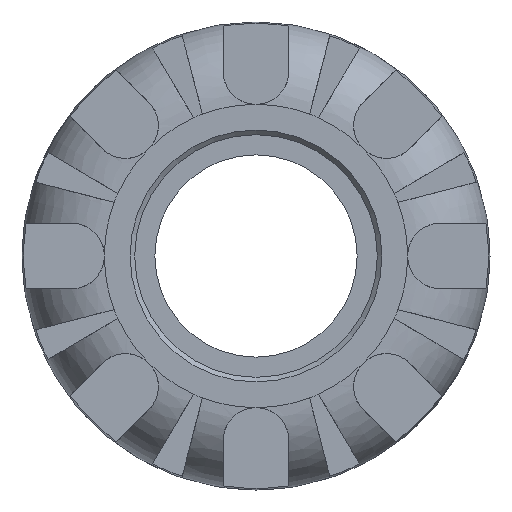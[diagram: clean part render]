
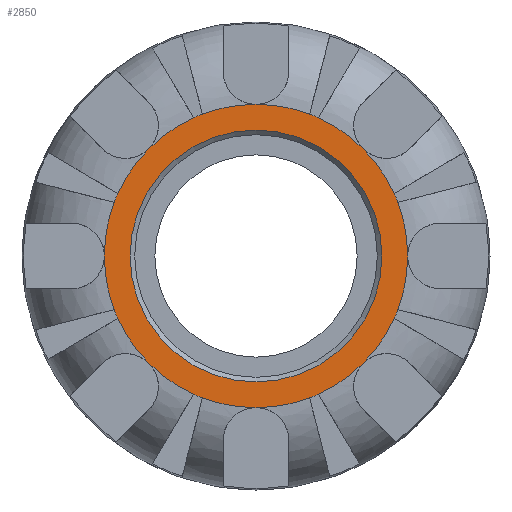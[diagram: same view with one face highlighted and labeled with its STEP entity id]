
A CAD part, left-side view. The second image highlights one B-rep face of the part: STEP entity #2850.
In plain terms, the highlighted planar face has unit normal (-1, 0, 0).
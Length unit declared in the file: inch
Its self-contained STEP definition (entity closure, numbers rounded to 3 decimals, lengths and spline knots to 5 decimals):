
#19=FACE_BOUND('',#619,.T.);
#34=PLANE('',#3049);
#454=FACE_OUTER_BOUND('',#618,.T.);
#618=EDGE_LOOP('',(#1823,#1824,#1825,#1826,#1827,#1828,#1829,#1830,#1831,
#1832,#1833,#1834,#1835,#1836,#1837,#1838,#1839,#1840,#1841,#1842,#1843,
#1844,#1845,#1846));
#619=EDGE_LOOP('',(#1847));
#785=CIRCLE('',#3046,0.43342);
#788=CIRCLE('',#3050,0.52165);
#789=CIRCLE('',#3051,0.52165);
#790=CIRCLE('',#3052,0.52165);
#791=CIRCLE('',#3053,0.52165);
#792=CIRCLE('',#3054,0.52165);
#793=CIRCLE('',#3055,0.52165);
#794=CIRCLE('',#3056,0.52165);
#795=CIRCLE('',#3057,0.52165);
#796=CIRCLE('',#3058,0.52165);
#797=CIRCLE('',#3059,0.52165);
#798=CIRCLE('',#3060,0.52165);
#799=CIRCLE('',#3061,0.52165);
#800=CIRCLE('',#3062,0.52165);
#801=CIRCLE('',#3063,0.52165);
#802=CIRCLE('',#3064,0.52165);
#803=CIRCLE('',#3065,0.52165);
#804=CIRCLE('',#3066,0.52165);
#805=CIRCLE('',#3067,0.52165);
#806=CIRCLE('',#3068,0.52165);
#807=CIRCLE('',#3069,0.52165);
#808=CIRCLE('',#3070,0.52165);
#809=CIRCLE('',#3071,0.52165);
#810=CIRCLE('',#3072,0.52165);
#811=CIRCLE('',#3073,0.52165);
#1077=VERTEX_POINT('',#4469);
#1080=VERTEX_POINT('',#4477);
#1081=VERTEX_POINT('',#4478);
#1082=VERTEX_POINT('',#4480);
#1083=VERTEX_POINT('',#4482);
#1084=VERTEX_POINT('',#4484);
#1085=VERTEX_POINT('',#4486);
#1086=VERTEX_POINT('',#4488);
#1087=VERTEX_POINT('',#4490);
#1088=VERTEX_POINT('',#4492);
#1089=VERTEX_POINT('',#4494);
#1090=VERTEX_POINT('',#4496);
#1091=VERTEX_POINT('',#4498);
#1092=VERTEX_POINT('',#4500);
#1093=VERTEX_POINT('',#4502);
#1094=VERTEX_POINT('',#4504);
#1095=VERTEX_POINT('',#4506);
#1096=VERTEX_POINT('',#4508);
#1097=VERTEX_POINT('',#4510);
#1098=VERTEX_POINT('',#4512);
#1099=VERTEX_POINT('',#4514);
#1100=VERTEX_POINT('',#4516);
#1101=VERTEX_POINT('',#4518);
#1102=VERTEX_POINT('',#4520);
#1103=VERTEX_POINT('',#4522);
#1363=EDGE_CURVE('',#1077,#1077,#785,.T.);
#1367=EDGE_CURVE('',#1080,#1081,#788,.T.);
#1368=EDGE_CURVE('',#1082,#1080,#789,.T.);
#1369=EDGE_CURVE('',#1083,#1082,#790,.T.);
#1370=EDGE_CURVE('',#1084,#1083,#791,.T.);
#1371=EDGE_CURVE('',#1085,#1084,#792,.T.);
#1372=EDGE_CURVE('',#1086,#1085,#793,.T.);
#1373=EDGE_CURVE('',#1087,#1086,#794,.T.);
#1374=EDGE_CURVE('',#1088,#1087,#795,.T.);
#1375=EDGE_CURVE('',#1089,#1088,#796,.T.);
#1376=EDGE_CURVE('',#1090,#1089,#797,.T.);
#1377=EDGE_CURVE('',#1091,#1090,#798,.T.);
#1378=EDGE_CURVE('',#1092,#1091,#799,.T.);
#1379=EDGE_CURVE('',#1093,#1092,#800,.T.);
#1380=EDGE_CURVE('',#1094,#1093,#801,.T.);
#1381=EDGE_CURVE('',#1095,#1094,#802,.T.);
#1382=EDGE_CURVE('',#1096,#1095,#803,.T.);
#1383=EDGE_CURVE('',#1097,#1096,#804,.T.);
#1384=EDGE_CURVE('',#1098,#1097,#805,.T.);
#1385=EDGE_CURVE('',#1099,#1098,#806,.T.);
#1386=EDGE_CURVE('',#1100,#1099,#807,.T.);
#1387=EDGE_CURVE('',#1101,#1100,#808,.T.);
#1388=EDGE_CURVE('',#1102,#1101,#809,.T.);
#1389=EDGE_CURVE('',#1103,#1102,#810,.T.);
#1390=EDGE_CURVE('',#1081,#1103,#811,.T.);
#1823=ORIENTED_EDGE('',*,*,#1367,.F.);
#1824=ORIENTED_EDGE('',*,*,#1368,.F.);
#1825=ORIENTED_EDGE('',*,*,#1369,.F.);
#1826=ORIENTED_EDGE('',*,*,#1370,.F.);
#1827=ORIENTED_EDGE('',*,*,#1371,.F.);
#1828=ORIENTED_EDGE('',*,*,#1372,.F.);
#1829=ORIENTED_EDGE('',*,*,#1373,.F.);
#1830=ORIENTED_EDGE('',*,*,#1374,.F.);
#1831=ORIENTED_EDGE('',*,*,#1375,.F.);
#1832=ORIENTED_EDGE('',*,*,#1376,.F.);
#1833=ORIENTED_EDGE('',*,*,#1377,.F.);
#1834=ORIENTED_EDGE('',*,*,#1378,.F.);
#1835=ORIENTED_EDGE('',*,*,#1379,.F.);
#1836=ORIENTED_EDGE('',*,*,#1380,.F.);
#1837=ORIENTED_EDGE('',*,*,#1381,.F.);
#1838=ORIENTED_EDGE('',*,*,#1382,.F.);
#1839=ORIENTED_EDGE('',*,*,#1383,.F.);
#1840=ORIENTED_EDGE('',*,*,#1384,.F.);
#1841=ORIENTED_EDGE('',*,*,#1385,.F.);
#1842=ORIENTED_EDGE('',*,*,#1386,.F.);
#1843=ORIENTED_EDGE('',*,*,#1387,.F.);
#1844=ORIENTED_EDGE('',*,*,#1388,.F.);
#1845=ORIENTED_EDGE('',*,*,#1389,.F.);
#1846=ORIENTED_EDGE('',*,*,#1390,.F.);
#1847=ORIENTED_EDGE('',*,*,#1363,.F.);
#2850=ADVANCED_FACE('',(#454,#19),#34,.T.);
#3046=AXIS2_PLACEMENT_3D('',#4470,#3418,#3419);
#3049=AXIS2_PLACEMENT_3D('',#4476,#3425,#3426);
#3050=AXIS2_PLACEMENT_3D('',#4479,#3427,#3428);
#3051=AXIS2_PLACEMENT_3D('',#4481,#3429,#3430);
#3052=AXIS2_PLACEMENT_3D('',#4483,#3431,#3432);
#3053=AXIS2_PLACEMENT_3D('',#4485,#3433,#3434);
#3054=AXIS2_PLACEMENT_3D('',#4487,#3435,#3436);
#3055=AXIS2_PLACEMENT_3D('',#4489,#3437,#3438);
#3056=AXIS2_PLACEMENT_3D('',#4491,#3439,#3440);
#3057=AXIS2_PLACEMENT_3D('',#4493,#3441,#3442);
#3058=AXIS2_PLACEMENT_3D('',#4495,#3443,#3444);
#3059=AXIS2_PLACEMENT_3D('',#4497,#3445,#3446);
#3060=AXIS2_PLACEMENT_3D('',#4499,#3447,#3448);
#3061=AXIS2_PLACEMENT_3D('',#4501,#3449,#3450);
#3062=AXIS2_PLACEMENT_3D('',#4503,#3451,#3452);
#3063=AXIS2_PLACEMENT_3D('',#4505,#3453,#3454);
#3064=AXIS2_PLACEMENT_3D('',#4507,#3455,#3456);
#3065=AXIS2_PLACEMENT_3D('',#4509,#3457,#3458);
#3066=AXIS2_PLACEMENT_3D('',#4511,#3459,#3460);
#3067=AXIS2_PLACEMENT_3D('',#4513,#3461,#3462);
#3068=AXIS2_PLACEMENT_3D('',#4515,#3463,#3464);
#3069=AXIS2_PLACEMENT_3D('',#4517,#3465,#3466);
#3070=AXIS2_PLACEMENT_3D('',#4519,#3467,#3468);
#3071=AXIS2_PLACEMENT_3D('',#4521,#3469,#3470);
#3072=AXIS2_PLACEMENT_3D('',#4523,#3471,#3472);
#3073=AXIS2_PLACEMENT_3D('',#4524,#3473,#3474);
#3418=DIRECTION('center_axis',(-1.,0.,0.));
#3419=DIRECTION('ref_axis',(0.,-1.,0.));
#3425=DIRECTION('center_axis',(-1.,0.,0.));
#3426=DIRECTION('ref_axis',(0.,0.,1.));
#3427=DIRECTION('center_axis',(1.,0.,0.));
#3428=DIRECTION('ref_axis',(0.,0.,-1.));
#3429=DIRECTION('center_axis',(1.,0.,0.));
#3430=DIRECTION('ref_axis',(0.,0.,-1.));
#3431=DIRECTION('center_axis',(1.,0.,0.));
#3432=DIRECTION('ref_axis',(0.,0.,-1.));
#3433=DIRECTION('center_axis',(1.,0.,0.));
#3434=DIRECTION('ref_axis',(0.,0.,-1.));
#3435=DIRECTION('center_axis',(1.,0.,0.));
#3436=DIRECTION('ref_axis',(0.,0.,-1.));
#3437=DIRECTION('center_axis',(1.,0.,0.));
#3438=DIRECTION('ref_axis',(0.,0.,-1.));
#3439=DIRECTION('center_axis',(1.,0.,0.));
#3440=DIRECTION('ref_axis',(0.,0.,-1.));
#3441=DIRECTION('center_axis',(1.,0.,0.));
#3442=DIRECTION('ref_axis',(0.,0.,-1.));
#3443=DIRECTION('center_axis',(1.,0.,0.));
#3444=DIRECTION('ref_axis',(0.,0.,-1.));
#3445=DIRECTION('center_axis',(1.,0.,0.));
#3446=DIRECTION('ref_axis',(0.,0.,-1.));
#3447=DIRECTION('center_axis',(1.,0.,0.));
#3448=DIRECTION('ref_axis',(0.,0.,-1.));
#3449=DIRECTION('center_axis',(1.,0.,0.));
#3450=DIRECTION('ref_axis',(0.,0.,-1.));
#3451=DIRECTION('center_axis',(1.,0.,0.));
#3452=DIRECTION('ref_axis',(0.,0.,-1.));
#3453=DIRECTION('center_axis',(1.,0.,0.));
#3454=DIRECTION('ref_axis',(0.,0.,-1.));
#3455=DIRECTION('center_axis',(1.,0.,0.));
#3456=DIRECTION('ref_axis',(0.,0.,-1.));
#3457=DIRECTION('center_axis',(1.,0.,0.));
#3458=DIRECTION('ref_axis',(0.,0.,-1.));
#3459=DIRECTION('center_axis',(1.,0.,0.));
#3460=DIRECTION('ref_axis',(0.,0.,-1.));
#3461=DIRECTION('center_axis',(1.,0.,0.));
#3462=DIRECTION('ref_axis',(0.,0.,-1.));
#3463=DIRECTION('center_axis',(1.,0.,0.));
#3464=DIRECTION('ref_axis',(0.,0.,-1.));
#3465=DIRECTION('center_axis',(1.,0.,0.));
#3466=DIRECTION('ref_axis',(0.,0.,-1.));
#3467=DIRECTION('center_axis',(1.,0.,0.));
#3468=DIRECTION('ref_axis',(0.,0.,-1.));
#3469=DIRECTION('center_axis',(1.,0.,0.));
#3470=DIRECTION('ref_axis',(0.,0.,-1.));
#3471=DIRECTION('center_axis',(1.,0.,0.));
#3472=DIRECTION('ref_axis',(0.,0.,-1.));
#3473=DIRECTION('center_axis',(1.,0.,0.));
#3474=DIRECTION('ref_axis',(0.,0.,-1.));
#4469=CARTESIAN_POINT('',(-1.81,0.43342,0.));
#4470=CARTESIAN_POINT('Origin',(-1.81,0.,0.));
#4476=CARTESIAN_POINT('Origin',(-1.81,0.52165,0.));
#4477=CARTESIAN_POINT('',(-1.81,0.52165,0.));
#4478=CARTESIAN_POINT('',(-1.81,0.48809,0.1841));
#4479=CARTESIAN_POINT('Origin',(-1.81,0.,0.));
#4480=CARTESIAN_POINT('',(-1.81,0.48809,-0.1841));
#4481=CARTESIAN_POINT('Origin',(-1.81,0.,0.));
#4482=CARTESIAN_POINT('',(-1.81,0.47531,-0.21495));
#4483=CARTESIAN_POINT('Origin',(-1.81,0.,0.));
#4484=CARTESIAN_POINT('',(-1.81,0.36886,-0.36886));
#4485=CARTESIAN_POINT('Origin',(-1.81,0.,0.));
#4486=CARTESIAN_POINT('',(-1.81,0.21495,-0.47531));
#4487=CARTESIAN_POINT('Origin',(-1.81,0.,0.));
#4488=CARTESIAN_POINT('',(-1.81,0.1841,-0.48809));
#4489=CARTESIAN_POINT('Origin',(-1.81,0.,0.));
#4490=CARTESIAN_POINT('',(-1.81,0.,-0.52165));
#4491=CARTESIAN_POINT('Origin',(-1.81,0.,0.));
#4492=CARTESIAN_POINT('',(-1.81,-0.1841,-0.48809));
#4493=CARTESIAN_POINT('Origin',(-1.81,0.,0.));
#4494=CARTESIAN_POINT('',(-1.81,-0.21495,-0.47531));
#4495=CARTESIAN_POINT('Origin',(-1.81,0.,0.));
#4496=CARTESIAN_POINT('',(-1.81,-0.36886,-0.36886));
#4497=CARTESIAN_POINT('Origin',(-1.81,0.,0.));
#4498=CARTESIAN_POINT('',(-1.81,-0.47531,-0.21495));
#4499=CARTESIAN_POINT('Origin',(-1.81,0.,0.));
#4500=CARTESIAN_POINT('',(-1.81,-0.48809,-0.1841));
#4501=CARTESIAN_POINT('Origin',(-1.81,0.,0.));
#4502=CARTESIAN_POINT('',(-1.81,-0.52165,0.));
#4503=CARTESIAN_POINT('Origin',(-1.81,0.,0.));
#4504=CARTESIAN_POINT('',(-1.81,-0.48809,0.1841));
#4505=CARTESIAN_POINT('Origin',(-1.81,0.,0.));
#4506=CARTESIAN_POINT('',(-1.81,-0.47531,0.21495));
#4507=CARTESIAN_POINT('Origin',(-1.81,0.,0.));
#4508=CARTESIAN_POINT('',(-1.81,-0.36886,0.36886));
#4509=CARTESIAN_POINT('Origin',(-1.81,0.,0.));
#4510=CARTESIAN_POINT('',(-1.81,-0.21495,0.47531));
#4511=CARTESIAN_POINT('Origin',(-1.81,0.,0.));
#4512=CARTESIAN_POINT('',(-1.81,-0.1841,0.48809));
#4513=CARTESIAN_POINT('Origin',(-1.81,0.,0.));
#4514=CARTESIAN_POINT('',(-1.81,0.,0.52165));
#4515=CARTESIAN_POINT('Origin',(-1.81,0.,0.));
#4516=CARTESIAN_POINT('',(-1.81,0.1841,0.48809));
#4517=CARTESIAN_POINT('Origin',(-1.81,0.,0.));
#4518=CARTESIAN_POINT('',(-1.81,0.21495,0.47531));
#4519=CARTESIAN_POINT('Origin',(-1.81,0.,0.));
#4520=CARTESIAN_POINT('',(-1.81,0.36886,0.36886));
#4521=CARTESIAN_POINT('Origin',(-1.81,0.,0.));
#4522=CARTESIAN_POINT('',(-1.81,0.47531,0.21495));
#4523=CARTESIAN_POINT('Origin',(-1.81,0.,0.));
#4524=CARTESIAN_POINT('Origin',(-1.81,0.,0.));
